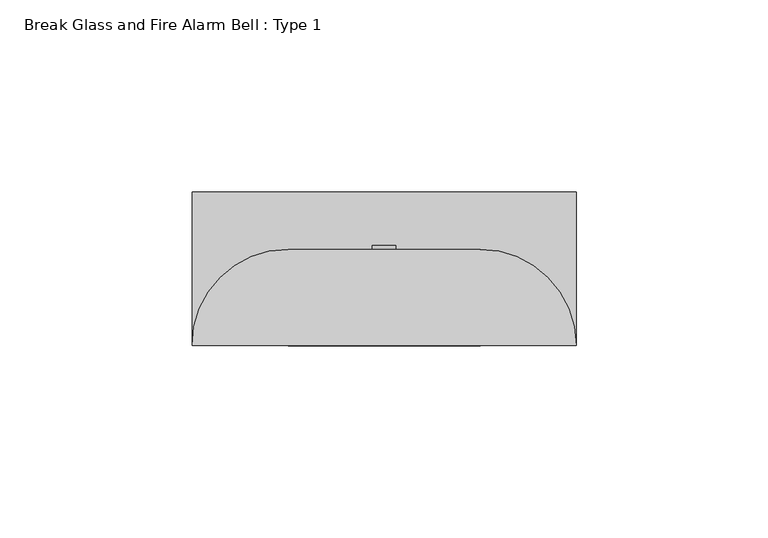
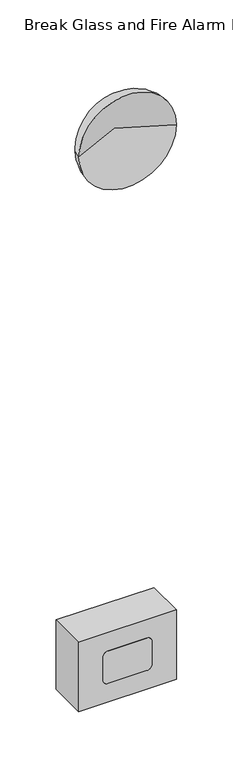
"""IFC4 building model written with IfcOpenShell, lengths in millimetres: alarm geometry, Break Glass and Fire Alarm Bell : Type 1."""

import ifcopenshell
import ifcopenshell.guid

model = None  # the IFC model being written
_history = None  # IfcOwnerHistory: only IFC2X3 demands one
_inside = {}  # id of a spatial element -> (the spatial element, [elements in it])
_under = {}  # id of a project, library or spatial element -> (it, [spatial elements below it])
_declared = {}  # id of a project -> (the project, [libraries it declares])
_typed = {}  # id of a type object -> (the type object, [elements of that type])
_made_of = {}  # id of a material, layer set ... -> (it, [elements and type objects made of it])


def new_model(schema):
    """Start an empty IFC model of exactly this schema.

    Asked for "IFC4X3", IfcOpenShell would pick the latest addendum, in which some entities
    have other attributes; the version numbers below select the first issue.
    IFC2X3 requires an IfcOwnerHistory on every rooted entity: one is made here for all.
    """
    global model, _history
    if schema == "IFC4X3":
        model = ifcopenshell.file(schema_version=(4, 3, 0, 0))
    else:
        model = ifcopenshell.file(schema=schema)
    _inside.clear()
    _under.clear()
    _declared.clear()
    _typed.clear()
    _made_of.clear()
    _history = None
    if model.schema == "IFC2X3":
        org = make("IfcOrganization", Name="unknown")
        user = make(
            "IfcPersonAndOrganization",
            ThePerson=make("IfcPerson", FamilyName="unknown"),
            TheOrganization=org,
        )
        app = make(
            "IfcApplication",
            ApplicationDeveloper=org,
            Version="unknown",
            ApplicationFullName="unknown",
            ApplicationIdentifier="unknown",
        )
        _history = make(
            "IfcOwnerHistory",
            OwningUser=user,
            OwningApplication=app,
            ChangeAction="ADDED",
            CreationDate=0,
        )
    return model


def make(cls, **values):
    """One entity of the class cls with the attributes given. An attribute that is None is left unset."""
    return model.create_entity(
        cls, **{name: value for name, value in values.items() if value is not None}
    )


def rooted(cls, **values):
    """An entity with a GlobalId (a new one), such as an element, a storey or a relation."""
    return make(cls, GlobalId=ifcopenshell.guid.new(), OwnerHistory=_history, **values)


def si_unit(unit_type, name, prefix=None):
    """IfcSIUnit, for example si_unit("LENGTHUNIT", "METRE", prefix="MILLI")."""
    return make("IfcSIUnit", UnitType=unit_type, Prefix=prefix, Name=name)


def assignment(units):
    """IfcUnitAssignment: the units of a project."""
    return None if units is None else make("IfcUnitAssignment", Units=units)


def point(xyz):
    """IfcCartesianPoint."""
    return None if xyz is None else make("IfcCartesianPoint", Coordinates=xyz)


def direction(xyz):
    """IfcDirection."""
    return None if xyz is None else make("IfcDirection", DirectionRatios=xyz)


def frame(location, z_axis=None, x_axis=None):
    """IfcAxis2Placement3D, a coordinate frame: its origin and axes. An axis left out is left unset."""
    return make(
        "IfcAxis2Placement3D",
        Location=point(location),
        Axis=direction(z_axis),
        RefDirection=direction(x_axis),
    )


def frame_2d(location, x_axis=None):
    """IfcAxis2Placement2D, a coordinate frame in the plane: its origin and x axis."""
    return make(
        "IfcAxis2Placement2D", Location=point(location), RefDirection=direction(x_axis)
    )


def origin():
    """The frame at (0, 0, 0) with its axes left unset."""
    return frame((0.0, 0.0, 0.0))


def place(relative_to, where):
    """IfcLocalPlacement: puts the frame where relative to a parent placement (None: the world)."""
    return make(
        "IfcLocalPlacement", PlacementRelTo=relative_to, RelativePlacement=where
    )


def context(
    kind, dimensions, precision=None, world=None, true_north=None, identifier=None
):
    """IfcGeometricRepresentationContext, for example the 3D "Model" context."""
    return make(
        "IfcGeometricRepresentationContext",
        ContextIdentifier=identifier,
        ContextType=kind,
        CoordinateSpaceDimension=dimensions,
        Precision=precision,
        WorldCoordinateSystem=world,
        TrueNorth=true_north,
    )


def project(units=None, contexts=None):
    """IfcProject with its units and contexts."""
    return rooted(
        "IfcProject",
        Name="project",
        RepresentationContexts=contexts,
        UnitsInContext=assignment(units),
    )


def spatial(cls, under=None, at=None, **own):
    """A site, building, storey or space (cls), placed at a placement, below another one or the project."""
    s = rooted(cls, ObjectPlacement=at, **own)
    if under is not None:
        _under.setdefault(under.id(), (under, []))[1].append(s)
    return s


def polyline(points):
    """IfcPolyline through the points."""
    return make("IfcPolyline", Points=[point(p) for p in points])


def circle_curve(where, radius):
    """IfcCircle in the frame where."""
    return make("IfcCircle", Position=where, Radius=radius)


def ellipse_curve(where, semi_axis1, semi_axis2):
    """IfcEllipse in the frame where."""
    return make(
        "IfcEllipse", Position=where, SemiAxis1=semi_axis1, SemiAxis2=semi_axis2
    )


def trimmed(basis, trim1, trim2, sense, master):
    """IfcTrimmedCurve: the piece of a basis curve between two trims."""
    return make(
        "IfcTrimmedCurve",
        BasisCurve=basis,
        Trim1=trim1,
        Trim2=trim2,
        SenseAgreement=sense,
        MasterRepresentation=master,
    )


def segment(curve, same_sense, transition):
    """IfcCompositeCurveSegment."""
    return make(
        "IfcCompositeCurveSegment",
        Transition=transition,
        SameSense=same_sense,
        ParentCurve=curve,
    )


def composite_curve(segments, self_intersect=None):
    """IfcCompositeCurve: segments joined end to end."""
    return make("IfcCompositeCurve", Segments=segments, SelfIntersect=self_intersect)


def outline(outer, holes=None, kind="AREA"):
    """IfcArbitraryClosedProfileDef: a profile drawn as a closed curve; with holes, ...WithVoids."""
    if holes is None:
        return make("IfcArbitraryClosedProfileDef", ProfileType=kind, OuterCurve=outer)
    return make(
        "IfcArbitraryProfileDefWithVoids",
        ProfileType=kind,
        OuterCurve=outer,
        InnerCurves=holes,
    )


def extrude(swept, where, along, depth):
    """IfcExtrudedAreaSolid: the profile swept, set in the frame where, extruded along a direction by depth."""
    return make(
        "IfcExtrudedAreaSolid",
        SweptArea=swept,
        Position=where,
        ExtrudedDirection=direction(along),
        Depth=depth,
    )


def shape(context_of_items, identifier, shape_type, items):
    """IfcShapeRepresentation: the items that make up one representation, for example the "Body"."""
    return make(
        "IfcShapeRepresentation",
        ContextOfItems=context_of_items,
        RepresentationIdentifier=identifier,
        RepresentationType=shape_type,
        Items=items,
    )


def source(mapping_origin, context_of_items, identifier, shape_type, items):
    """IfcRepresentationMap: a shape defined once, which mapped items show again and again."""
    return make(
        "IfcRepresentationMap",
        MappingOrigin=mapping_origin,
        MappedRepresentation=shape(context_of_items, identifier, shape_type, items),
    )


def transform(
    local_origin,
    x_axis=None,
    y_axis=None,
    z_axis=None,
    scale=None,
    scale2=None,
    scale3=None,
    uniform=True,
):
    """IfcCartesianTransformationOperator3D, or its non-uniform kind. x_axis, y_axis, z_axis: its Axis1, 2, 3."""
    if uniform:
        return make(
            "IfcCartesianTransformationOperator3D",
            Axis1=direction(x_axis),
            Axis2=direction(y_axis),
            LocalOrigin=point(local_origin),
            Scale=scale,
            Axis3=direction(z_axis),
        )
    return make(
        "IfcCartesianTransformationOperator3DnonUniform",
        Axis1=direction(x_axis),
        Axis2=direction(y_axis),
        LocalOrigin=point(local_origin),
        Scale=scale,
        Axis3=direction(z_axis),
        Scale2=scale2,
        Scale3=scale3,
    )


def mapped(mapping_source, mapping_target):
    """IfcMappedItem: shows the shape of a source again, moved by a transform."""
    return make(
        "IfcMappedItem", MappingSource=mapping_source, MappingTarget=mapping_target
    )


def made_of(thing, what):
    """Note that an element or type object is made of a material, layer set ...; save() writes the relation."""
    if what is not None:
        _made_of.setdefault(what.id(), (what, []))[1].append(thing)
    return thing


def element(
    cls,
    number,
    at=None,
    inside=None,
    cuts=None,
    type_object=None,
    material=None,
    context=None,
    identifier="Body",
    shape_type=None,
    held_by="IfcProductDefinitionShape",
    body=None,
    shapes=None,
    **own,
):
    """One element of the class cls, such as IfcWall. Its Tag is "e" and its number.

    at: its placement. inside: the storey or other place that contains it. cuts: it is an
    opening in that element (IfcRelVoidsElement). A single representation is given by context,
    identifier, shape_type and body (its items); several are given by shapes. held_by: the class
    of the entity that holds the representations. save() writes the other relations.
    """
    e = rooted(cls, Tag="e%d" % number, ObjectPlacement=at, **own)
    if body is not None:
        shapes = [shape(context, identifier, shape_type, body)]
    if shapes is not None:
        e.Representation = make(held_by, Representations=shapes)
    if inside is not None:
        _inside.setdefault(inside.id(), (inside, []))[1].append(e)
    if cuts is not None:
        rooted(
            "IfcRelVoidsElement", RelatingBuildingElement=cuts, RelatedOpeningElement=e
        )
    if type_object is not None:
        _typed.setdefault(type_object.id(), (type_object, []))[1].append(e)
    return made_of(e, material)


def aggregate(whole, parts):
    """IfcRelAggregates: a whole, such as a stair, and the parts it consists of."""
    return rooted("IfcRelAggregates", RelatingObject=whole, RelatedObjects=parts)


def save(model, path):
    """Write the relations noted so far, then the file.

    IfcRelAggregates (storeys below a building ...), IfcRelContainedInSpatialStructure (elements
    in a storey), IfcRelDefinesByType, IfcRelAssociatesMaterial and IfcRelDeclares: one each for
    every whole, place, type object, material and project.
    """
    for whole, parts in _under.values():
        aggregate(whole, parts)
    for where, things in _inside.values():
        rooted(
            "IfcRelContainedInSpatialStructure",
            RelatedElements=things,
            RelatingStructure=where,
        )
    for kind, things in _typed.values():
        rooted("IfcRelDefinesByType", RelatedObjects=things, RelatingType=kind)
    for what, things in _made_of.values():
        rooted("IfcRelAssociatesMaterial", RelatedObjects=things, RelatingMaterial=what)
    for by, libraries in _declared.values():
        rooted("IfcRelDeclares", RelatingContext=by, RelatedDefinitions=libraries)
    model.write(path)


def plane_surface(at):
    """IfcPlane: the flat surface through the origin of the frame at, square to its z axis."""
    return make("IfcPlane", Position=at)


def cylinder_surface(at, radius):
    """IfcCylindricalSurface: all points at the distance radius from the z axis of the frame at."""
    return make("IfcCylindricalSurface", Position=at, Radius=radius)


def revolved_surface(curve, axis_point, axis_direction):
    """IfcSurfaceOfRevolution: the curve turned about the line through axis_point along axis_direction."""
    return make(
        "IfcSurfaceOfRevolution",
        SweptCurve=make("IfcArbitraryOpenProfileDef", ProfileType="CURVE", Curve=curve),
        AxisPosition=make("IfcAxis1Placement", Location=point(axis_point), Axis=direction(axis_direction)),
    )


def advanced_brep(points, edges, surfaces, faces):
    """IfcAdvancedBrep: a solid bounded by faces that lie on surfaces and meet in shared edges.

    An edge is (start, end): straight between two places in points (the first is 0);
    or (start, end, curve); or (start, end, curve, False) where it runs against its curve.
    A face is (place in surfaces, loops), or (place, loops, False) where it looks against
    its surface's normal. A loop lists edges by number (the first is 1), with a minus sign
    where the edge is run from its end to its start. The first loop is the outer one.
    """
    corners = [point(p) for p in points]
    vertices = [make("IfcVertexPoint", VertexGeometry=c) for c in corners]
    made = []
    for start, end, *more in edges:
        made.append(
            make(
                "IfcEdgeCurve",
                EdgeStart=vertices[start],
                EdgeEnd=vertices[end],
                EdgeGeometry=more[0] if more else make("IfcPolyline", Points=[corners[start], corners[end]]),
                SameSense=more[1] if len(more) > 1 else True,
            )
        )
    hull = []
    for where, loops, *sense in faces:
        bounds = []
        for j, loop in enumerate(loops):
            ring = [make("IfcOrientedEdge", EdgeElement=made[abs(k) - 1], Orientation=k > 0) for k in loop]
            bounds.append(
                make(
                    "IfcFaceOuterBound" if j == 0 else "IfcFaceBound",
                    Bound=make("IfcEdgeLoop", EdgeList=ring),
                    Orientation=True,
                )
            )
        hull.append(make("IfcAdvancedFace", Bounds=bounds, FaceSurface=surfaces[where], SameSense=sense[0] if sense else True))
    return make("IfcAdvancedBrep", Outer=make("IfcClosedShell", CfsFaces=hull))


def break_glass_and_fire_alarm_bell_type_1_92468b06(model_context):
    return source(origin(), model_context, "Body", "SolidModel", [
        advanced_brep(
        [(125.0, 123.0, 2050.0), (75.0, 100.0, 2050.0), (175.0, 100.0, 2050.0), (150.0, 123.0, 2050.0), (100.0, 123.0, 2050.0), (122.0, 123.0, 2050.0), (128.0, 123.0, 2050.0), (150.0, 125.0, 2050.0), (100.0, 125.0, 2050.0), (128.0, 126.0, 2050.0), (122.0, 126.0, 2050.0), (125.0, 126.0, 2050.0)],
        [
            (0, 1),
            (1, 2, circle_curve(frame((125.0, 100.0, 2050.0), z_axis=(0.0, -1.0, 0.0), x_axis=(-1.0, 0.0, 0.0)), 50.0)),
            (2, 0),
            (2, 1, circle_curve(frame((125.0, 100.0, 2050.0), z_axis=(0.0, -1.0, 0.0), x_axis=(-1.0, 0.0, 0.0)), 50.0)),
            (3, 4, circle_curve(frame((125.0, 123.0, 2050.0), z_axis=(0.0, 1.0, 0.0), x_axis=(-1.0, 0.0, 0.0)), 25.0)),
            (4, 5),
            (5, 6, circle_curve(frame((125.0, 123.0, 2050.0), z_axis=(0.0, -1.0, 0.0), x_axis=(-1.0, 0.0, 0.0)), 3.0)),
            (6, 3),
            (4, 3, circle_curve(frame((125.0, 123.0, 2050.0), z_axis=(0.0, 1.0, 0.0), x_axis=(-1.0, 0.0, 0.0)), 25.0)),
            (6, 5, circle_curve(frame((125.0, 123.0, 2050.0), z_axis=(0.0, -1.0, 0.0), x_axis=(-1.0, 0.0, 0.0)), 3.0)),
            (7, 8, circle_curve(frame((125.0, 125.0, 2050.0), z_axis=(0.0, 1.0, 0.0), x_axis=(-1.0, 0.0, 0.0)), 25.0)),
            (8, 4),
            (3, 7),
            (8, 7, circle_curve(frame((125.0, 125.0, 2050.0), z_axis=(0.0, 1.0, 0.0), x_axis=(-1.0, 0.0, 0.0)), 25.0)),
            (1, 8, circle_curve(frame((100.0, 100.0, 2050.0), z_axis=(0.0, 0.0, -1.0), x_axis=(-1.0, 0.0, 0.0)), 25.0)),
            (7, 2, circle_curve(frame((150.0, 100.0, 2050.0), z_axis=(0.0, 0.0, -1.0), x_axis=(1.0, 0.0, 0.0)), 25.0)),
            (9, 10, circle_curve(frame((125.0, 126.0, 2050.0), z_axis=(0.0, 1.0, 0.0), x_axis=(-1.0, 0.0, 0.0)), 3.0)),
            (10, 11),
            (11, 9),
            (10, 9, circle_curve(frame((125.0, 126.0, 2050.0), z_axis=(0.0, 1.0, 0.0), x_axis=(-1.0, 0.0, 0.0)), 3.0)),
            (5, 10),
            (9, 6),
        ],
        [
            revolved_surface(polyline([(75.0, 100.0, 2050.0), (125.0, 123.0, 2050.0)]), (125.0, 100.0, 2050.0), (0.0, -1.0, 0.0)),
            plane_surface(frame((125.0, 123.0, 2050.0), z_axis=(0.0, 1.0, 0.0), x_axis=(-1.0, 0.0, 0.0))),
            revolved_surface(polyline([(100.0, 123.0, 2050.0), (100.0, 125.0, 2050.0)]), (125.0, 100.0, 2050.0), (0.0, -1.0, 0.0)),
            revolved_surface(trimmed(ellipse_curve(frame((100.0, 100.0, 2050.0), z_axis=(0.0, 0.0, 1.0), x_axis=(-1.0, 0.0, 0.0)), 25.0, 25.0), [point((100.0, 125.0, 2050.0))], [point((75.0, 100.0, 2050.0))], True, "CARTESIAN"), (125.0, 100.0, 2050.0), (0.0, -1.0, 0.0)),
            plane_surface(frame((125.0, 126.0, 2050.0), z_axis=(0.0, 1.0, 0.0), x_axis=(-1.0, 0.0, 0.0))),
            cylinder_surface(frame((125.0, 100.0, 2050.0), z_axis=(0.0, -1.0, 0.0), x_axis=(-1.0, 0.0, 0.0)), 3.0),
        ],
        [
            (0, [[1, 2, 3]]),
            (0, [[-3, 4, -1]]),
            (1, [[5, 6, 7, 8]]),
            (1, [[9, -8, 10, -6]]),
            (2, [[11, 12, -5, 13]]),
            (2, [[14, -13, -9, -12]]),
            (3, [[-2, 15, -11, 16]]),
            (3, [[-4, -16, -14, -15]]),
            (4, [[17, 18, 19]]),
            (4, [[20, -19, -18]]),
            (5, [[-7, 21, -17, 22]]),
            (5, [[-10, -22, -20, -21]]),
        ],
    ),
        extrude(outline(composite_curve([segment(trimmed(circle_curve(frame_2d((1487.5, 125.0)), 5.0), [point((1487.5, 130.0))], [point((1487.5, 120.0))], False, "CARTESIAN"), True, "CONTINUOUS"), segment(trimmed(circle_curve(frame_2d((1487.5, 125.0)), 5.0), [point((1487.5, 120.0))], [point((1487.5, 130.0))], False, "CARTESIAN"), True, "CONTINUOUS")], self_intersect=False)), frame((0.0, 120.0, 0.0), z_axis=(0.0, 1.0, 0.0), x_axis=(0.0, 0.0, 1.0)), (0.0, 0.0, 1.0), 5.0),
        extrude(outline(composite_curve([segment(polyline([(1475.0, 150.0), (1500.0, 150.0)]), True, "CONTINUOUS"), segment(trimmed(circle_curve(frame_2d((1500.0, 145.0)), 5.0), [point((1500.0, 150.0))], [point((1505.0, 145.0))], False, "CARTESIAN"), True, "CONTINUOUS"), segment(polyline([(1505.0, 145.0), (1505.0, 105.0)]), True, "CONTINUOUS"), segment(trimmed(circle_curve(frame_2d((1500.0, 105.0)), 5.0), [point((1505.0, 105.0))], [point((1500.0, 100.0))], False, "CARTESIAN"), True, "CONTINUOUS"), segment(polyline([(1500.0, 100.0), (1475.0, 100.0)]), True, "CONTINUOUS"), segment(trimmed(circle_curve(frame_2d((1475.0, 105.0)), 5.0), [point((1475.0, 100.0))], [point((1470.0, 105.0))], False, "CARTESIAN"), True, "CONTINUOUS"), segment(polyline([(1470.0, 105.0), (1470.0, 145.0)]), True, "CONTINUOUS"), segment(trimmed(circle_curve(frame_2d((1475.0, 145.0)), 5.0), [point((1470.0, 145.0))], [point((1475.0, 150.0))], False, "CARTESIAN"), True, "CONTINUOUS")], self_intersect=False)), frame((0.0, 137.0, 0.0), z_axis=(0.0, 1.0, 0.0), x_axis=(0.0, 0.0, 1.0)), (0.0, 0.0, 1.0), 1.0),
        extrude(outline(composite_curve([segment(polyline([(1500.0, 100.0), (1475.0, 100.0)]), True, "CONTINUOUS"), segment(trimmed(circle_curve(frame_2d((1475.0, 105.0)), 5.0), [point((1475.0, 100.0))], [point((1470.0, 105.0))], False, "CARTESIAN"), True, "CONTINUOUS"), segment(polyline([(1470.0, 105.0), (1470.0, 145.0)]), True, "CONTINUOUS"), segment(trimmed(circle_curve(frame_2d((1475.0, 145.0)), 5.0), [point((1470.0, 145.0))], [point((1475.0, 150.0))], False, "CARTESIAN"), True, "CONTINUOUS"), segment(polyline([(1475.0, 150.0), (1500.0, 150.0)]), True, "CONTINUOUS"), segment(trimmed(circle_curve(frame_2d((1500.0, 145.0)), 5.0), [point((1500.0, 150.0))], [point((1505.0, 145.0))], False, "CARTESIAN"), True, "CONTINUOUS"), segment(polyline([(1505.0, 145.0), (1505.0, 105.0)]), True, "CONTINUOUS"), segment(trimmed(circle_curve(frame_2d((1500.0, 105.0)), 5.0), [point((1505.0, 105.0))], [point((1500.0, 100.0))], False, "CARTESIAN"), True, "CONTINUOUS")], self_intersect=False)), frame((0.0, 100.0, 0.0), z_axis=(0.0, 1.0, 0.0), x_axis=(0.0, 0.0, 1.0)), (0.0, 0.0, 1.0), 20.0),
        extrude(outline(polyline([(1525.0, 75.0), (1450.0, 75.0), (1450.0, 175.0), (1525.0, 175.0), (1525.0, 75.0)]), holes=[composite_curve([segment(polyline([(1470.0, 145.0), (1470.0, 105.0)]), True, "CONTINUOUS"), segment(trimmed(circle_curve(frame_2d((1475.0, 105.0)), 5.0), [point((1470.0, 105.0))], [point((1475.0, 100.0))], True, "CARTESIAN"), True, "CONTINUOUS"), segment(polyline([(1475.0, 100.0), (1500.0, 100.0)]), True, "CONTINUOUS"), segment(trimmed(circle_curve(frame_2d((1500.0, 105.0)), 5.0), [point((1500.0, 100.0))], [point((1505.0, 105.0))], True, "CARTESIAN"), True, "CONTINUOUS"), segment(polyline([(1505.0, 105.0), (1505.0, 145.0)]), True, "CONTINUOUS"), segment(trimmed(circle_curve(frame_2d((1500.0, 145.0)), 5.0), [point((1505.0, 145.0))], [point((1500.0, 150.0))], True, "CARTESIAN"), True, "CONTINUOUS"), segment(polyline([(1500.0, 150.0), (1475.0, 150.0)]), True, "CONTINUOUS"), segment(trimmed(circle_curve(frame_2d((1475.0, 145.0)), 5.0), [point((1475.0, 150.0))], [point((1470.0, 145.0))], True, "CARTESIAN"), True, "CONTINUOUS")], self_intersect=False)]), frame((0.0, 100.0, 0.0), z_axis=(0.0, 1.0, 0.0), x_axis=(0.0, 0.0, 1.0)), (0.0, 0.0, 1.0), 40.0),
    ])


if __name__ == "__main__":
    model = new_model("IFC4")
    model_context = context("Model", 3, world=origin())
    ifc_project = project(units=[si_unit("LENGTHUNIT", "METRE", prefix="MILLI")], contexts=[model_context])
    site = spatial("IfcSite", under=ifc_project)
    building = spatial("IfcBuilding", under=site)
    placement = place(None, origin())
    break_glass_and_fire_alarm_bell_type_1_shape = break_glass_and_fire_alarm_bell_type_1_92468b06(model_context)
    element("IfcAlarm", 1, ObjectType="Break Glass and Fire Alarm Bell : Type 1", at=placement, inside=building, context=model_context, shape_type="MappedRepresentation", body=[
        mapped(break_glass_and_fire_alarm_bell_type_1_shape, transform((0.0, 0.0, 0.0), x_axis=(1.0, 0.0, 0.0), y_axis=(0.0, 1.0, 0.0), z_axis=(0.0, 0.0, 1.0))),
    ])
    save(model, "model.ifc")
